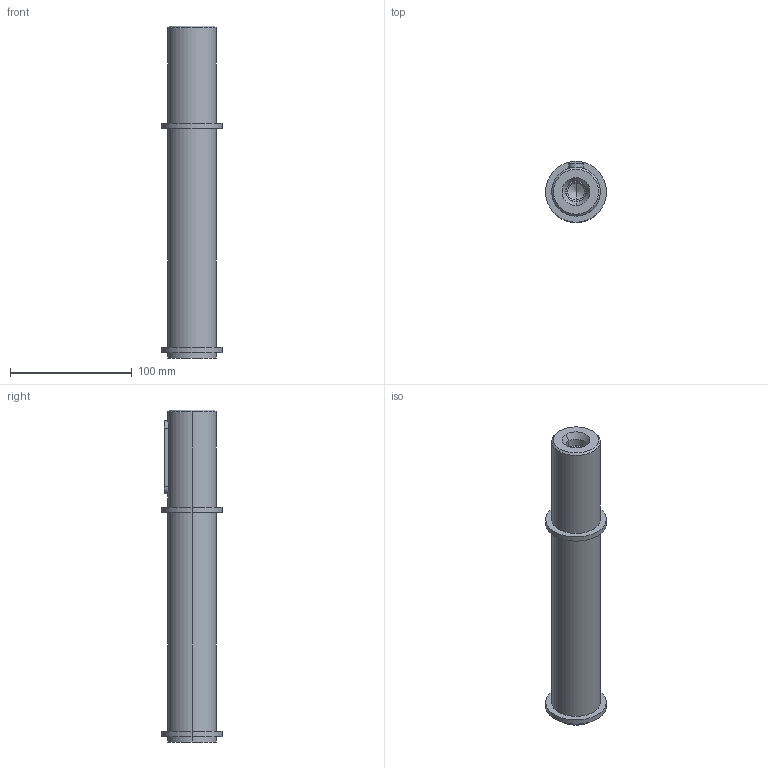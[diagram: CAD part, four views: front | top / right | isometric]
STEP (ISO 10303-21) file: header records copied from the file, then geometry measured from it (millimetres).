
FILE_DESCRIPTION(/* description */ (''),/* implementation_level */ '2;1');
FILE_NAME(/* name */ '4_ALBERO LENTO SEMPLICE B083',/* time_stamp */ '2025-10-22T11:07:57+02:00',/* author */ (''),/* organization */ (''),/* preprocessor_version */ 'ST-DEVELOPER v19.2',/* originating_system */ 'Rhino 8.23',/* authorisation */ '');
FILE_SCHEMA (('CONFIG_CONTROL_DESIGN'));
Length unit declared in the file: millimetre
Products named in the file (2): Document; Albero 40x80-(831)
Bounding box: 50 x 50 x 273 mm (x, y, z)
Volume: 342842.3 mm3; surface area: 42280.7 mm2
Topology: 1 solids, 1 shells, 34 faces, 70 edges, 43 vertices
Faces by surface type: cylinder 16, plane 10, bspline 8
Entity records: 1176 total; most frequent: CARTESIAN_POINT 339, ORIENTED_EDGE 136, DIRECTION 106, EDGE_CURVE 68, AXIS2_PLACEMENT_3D 66, VERTEX_POINT 43, EDGE_LOOP 41, TRIMMED_CURVE 36
